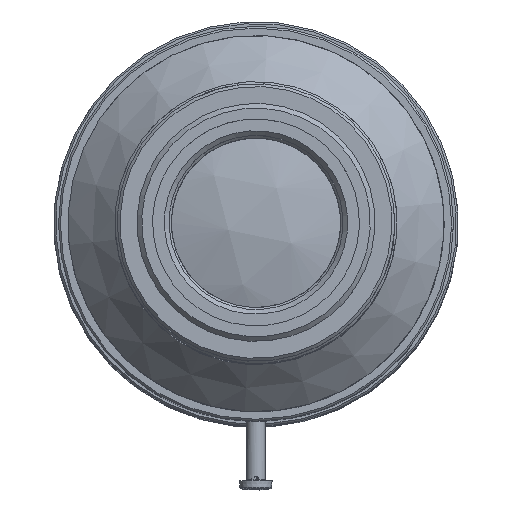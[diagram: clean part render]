
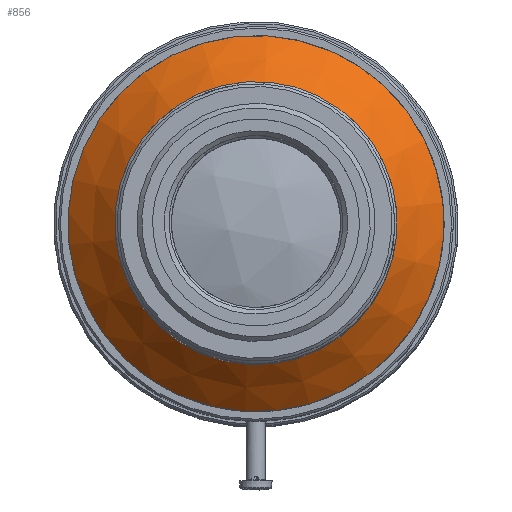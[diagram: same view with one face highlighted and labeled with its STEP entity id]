
A CAD part, top view. The second image highlights one B-rep face of the part: STEP entity #856.
In plain terms, the highlighted conical face has half-angle 45 degrees and reference radius 20 mm.
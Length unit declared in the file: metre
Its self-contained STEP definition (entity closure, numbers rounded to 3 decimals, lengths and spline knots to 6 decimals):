
#856=ADVANCED_FACE('1:14112',(#1982,#1983),#1984,.T.);
#1982=FACE_OUTER_BOUND('',#5746,.T.);
#1983=FACE_BOUND('',#5747,.T.);
#1984=CONICAL_SURFACE('',#5748,0.02,0.785);
#5746=EDGE_LOOP('',(#8097));
#5747=EDGE_LOOP('',(#8098));
#5748=AXIS2_PLACEMENT_3D('',#8099,#8100,#8101);
#8097=ORIENTED_EDGE('',*,*,#9992,.F.);
#8098=ORIENTED_EDGE('',*,*,#9982,.T.);
#8099=CARTESIAN_POINT('',(-0.000116,-0.000028,0.079265));
#8100=DIRECTION('',(0.,0.,-1.0));
#8101=DIRECTION('',(-0.973,0.233,0.));
#9982=EDGE_CURVE('1:14235',#11364,#11364,#11365,.T.);
#9992=EDGE_CURVE('1:14238',#11380,#11380,#11381,.T.);
#11364=VERTEX_POINT('',#14963);
#11365=CIRCLE('',#14964,0.015);
#11380=VERTEX_POINT('',#14979);
#11381=CIRCLE('',#14980,0.02);
#14963=CARTESIAN_POINT('',(-0.014704,0.003464,0.084265));
#14964=AXIS2_PLACEMENT_3D('',#16672,#16673,#16674);
#14979=CARTESIAN_POINT('',(-0.019566,0.004628,0.079265));
#14980=AXIS2_PLACEMENT_3D('',#16690,#16691,#16692);
#16672=CARTESIAN_POINT('',(-0.000116,-0.000028,0.084265));
#16673=DIRECTION('',(0.,0.,-1.0));
#16674=DIRECTION('',(-0.973,0.233,0.));
#16690=CARTESIAN_POINT('',(-0.000116,-0.000028,0.079265));
#16691=DIRECTION('',(0.,0.,-1.0));
#16692=DIRECTION('',(-0.973,0.233,0.));
